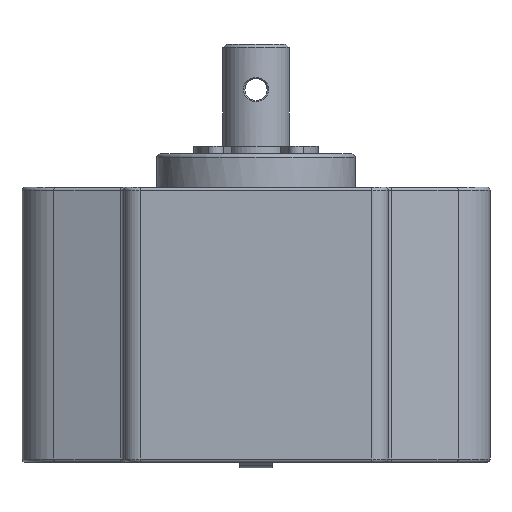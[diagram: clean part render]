
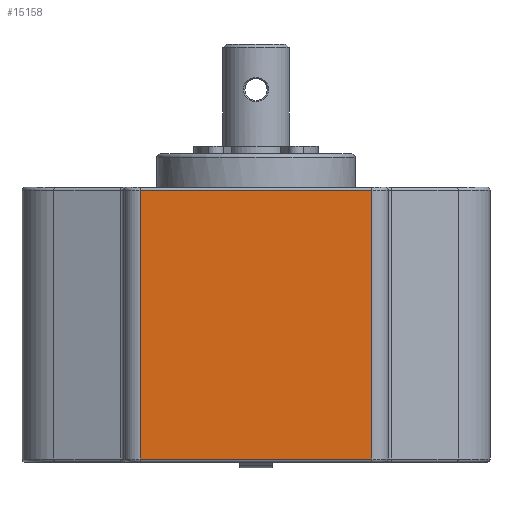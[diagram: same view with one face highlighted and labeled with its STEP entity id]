
A CAD part, front view. The second image highlights one B-rep face of the part: STEP entity #15158.
In plain terms, the highlighted planar face has unit normal (0, -1, 0).
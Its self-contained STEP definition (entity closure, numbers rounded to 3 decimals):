
#179 = VERTEX_POINT ( 'NONE', #11687 ) ;
#1721 = DIRECTION ( 'NONE',  ( 0., 0., -1. ) ) ;
#1960 = LINE ( 'NONE', #8849, #17245 ) ;
#2437 = EDGE_LOOP ( 'NONE', ( #11237, #13645, #5784, #4867 ) ) ;
#2715 = PLANE ( 'NONE',  #9564 ) ;
#2814 = CARTESIAN_POINT ( 'NONE',  ( -10.5, -13., -27.7 ) ) ;
#2986 = CARTESIAN_POINT ( 'NONE',  ( 10.5, -13., -3.3 ) ) ;
#3156 = CARTESIAN_POINT ( 'NONE',  ( 10.5, -13., -28. ) ) ;
#3858 = VERTEX_POINT ( 'NONE', #8880 ) ;
#4867 = ORIENTED_EDGE ( 'NONE', *, *, #5051, .T. ) ;
#5051 = EDGE_CURVE ( 'NONE', #6454, #179, #5524, .T. ) ;
#5524 = LINE ( 'NONE', #9578, #14064 ) ;
#5784 = ORIENTED_EDGE ( 'NONE', *, *, #15610, .T. ) ;
#6454 = VERTEX_POINT ( 'NONE', #2814 ) ;
#7180 = LINE ( 'NONE', #15363, #14923 ) ;
#7348 = DIRECTION ( 'NONE',  ( -1., 0., 0. ) ) ;
#8192 = EDGE_CURVE ( 'NONE', #8854, #3858, #1960, .T. ) ;
#8258 = DIRECTION ( 'NONE',  ( 1., 0., 0. ) ) ;
#8528 = DIRECTION ( 'NONE',  ( 0., 0., 1. ) ) ;
#8849 = CARTESIAN_POINT ( 'NONE',  ( -10.5, -13., -3.3 ) ) ;
#8854 = VERTEX_POINT ( 'NONE', #2986 ) ;
#8880 = CARTESIAN_POINT ( 'NONE',  ( -10.5, -13., -3.3 ) ) ;
#9564 = AXIS2_PLACEMENT_3D ( 'NONE', #13564, #13385, #14874 ) ;
#9578 = CARTESIAN_POINT ( 'NONE',  ( 10.5, -13., -27.7 ) ) ;
#9847 = LINE ( 'NONE', #3156, #12673 ) ;
#11237 = ORIENTED_EDGE ( 'NONE', *, *, #14066, .T. ) ;
#11687 = CARTESIAN_POINT ( 'NONE',  ( 10.5, -13., -27.7 ) ) ;
#12673 = VECTOR ( 'NONE', #8528, 1000. ) ;
#13385 = DIRECTION ( 'NONE',  ( 0., -1., 0. ) ) ;
#13564 = CARTESIAN_POINT ( 'NONE',  ( -12., -13., -28. ) ) ;
#13645 = ORIENTED_EDGE ( 'NONE', *, *, #8192, .T. ) ;
#14064 = VECTOR ( 'NONE', #8258, 1000. ) ;
#14066 = EDGE_CURVE ( 'NONE', #179, #8854, #9847, .T. ) ;
#14874 = DIRECTION ( 'NONE',  ( 0., 0., -1. ) ) ;
#14923 = VECTOR ( 'NONE', #1721, 1000. ) ;
#15158 = ADVANCED_FACE ( 'NONE', ( #17429 ), #2715, .T. ) ;
#15363 = CARTESIAN_POINT ( 'NONE',  ( -10.5, -13., -28. ) ) ;
#15610 = EDGE_CURVE ( 'NONE', #3858, #6454, #7180, .T. ) ;
#17245 = VECTOR ( 'NONE', #7348, 1000. ) ;
#17429 = FACE_OUTER_BOUND ( 'NONE', #2437, .T. ) ;
